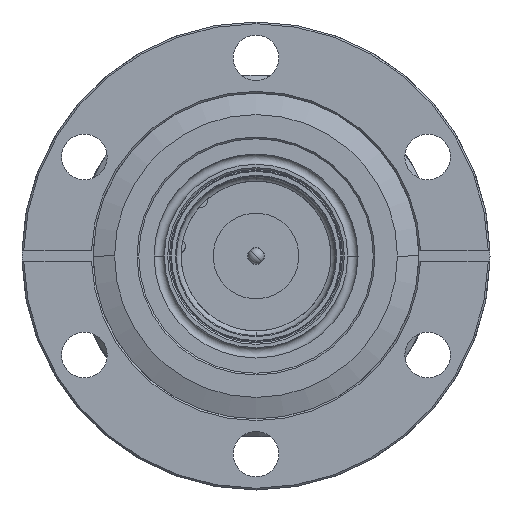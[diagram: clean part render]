
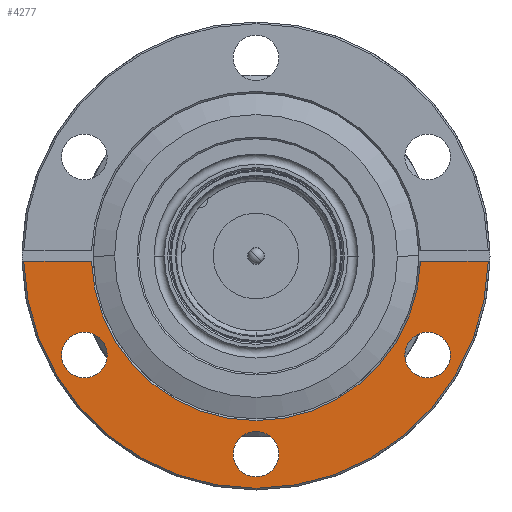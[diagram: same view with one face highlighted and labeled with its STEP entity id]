
A CAD part, front view. The second image highlights one B-rep face of the part: STEP entity #4277.
In plain terms, the highlighted planar face has unit normal (0, -1, 0).
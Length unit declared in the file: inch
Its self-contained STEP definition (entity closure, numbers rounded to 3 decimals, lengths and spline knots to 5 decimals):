
#716 = EDGE_CURVE ( 'NONE', #3772, #26163, #9018, .T. ) ;
#885 = ORIENTED_EDGE ( 'NONE', *, *, #716, .F. ) ;
#2240 = FACE_BOUND ( 'NONE', #28410, .T. ) ;
#2248 = CARTESIAN_POINT ( 'NONE',  ( 0., -3.45, -1.156 ) ) ;
#3772 = VERTEX_POINT ( 'NONE', #29373 ) ;
#3934 = CARTESIAN_POINT ( 'NONE',  ( 0.94953, -3.45, -0.03 ) ) ;
#4277 = ADVANCED_FACE ( 'NONE', ( #16425, #10832, #2240, #5770 ), #8577, .T. ) ;
#5238 = VERTEX_POINT ( 'NONE', #9117 ) ;
#5391 = EDGE_LOOP ( 'NONE', ( #885, #9840, #7220, #11126 ) ) ;
#5770 = FACE_OUTER_BOUND ( 'NONE', #5391, .T. ) ;
#5854 = AXIS2_PLACEMENT_3D ( 'NONE', #18578, #36305, #29775 ) ;
#6501 = DIRECTION ( 'NONE',  ( 0., 0., 1. ) ) ;
#6777 = ORIENTED_EDGE ( 'NONE', *, *, #7448, .F. ) ;
#7042 = AXIS2_PLACEMENT_3D ( 'NONE', #14342, #25719, #6501 ) ;
#7060 = CIRCLE ( 'NONE', #27902, 0.133 ) ;
#7220 = ORIENTED_EDGE ( 'NONE', *, *, #35834, .F. ) ;
#7226 = VERTEX_POINT ( 'NONE', #30236 ) ;
#7448 = EDGE_CURVE ( 'NONE', #12394, #7226, #8461, .T. ) ;
#8034 = DIRECTION ( 'NONE',  ( 0., 0., 1. ) ) ;
#8461 = CIRCLE ( 'NONE', #34107, 0.133 ) ;
#8577 = PLANE ( 'NONE',  #12421 ) ;
#8643 = DIRECTION ( 'NONE',  ( 0., -1., 0. ) ) ;
#8741 = CARTESIAN_POINT ( 'NONE',  ( 0.95953, -3.45, -0.03 ) ) ;
#9018 = LINE ( 'NONE', #34053, #34121 ) ;
#9117 = CARTESIAN_POINT ( 'NONE',  ( 1.00113, -3.45, -0.711 ) ) ;
#9840 = ORIENTED_EDGE ( 'NONE', *, *, #20635, .T. ) ;
#10727 = DIRECTION ( 'NONE',  ( 0., 1., 0. ) ) ;
#10832 = FACE_BOUND ( 'NONE', #33321, .T. ) ;
#11126 = ORIENTED_EDGE ( 'NONE', *, *, #29211, .T. ) ;
#11259 = VERTEX_POINT ( 'NONE', #8741 ) ;
#11480 = CARTESIAN_POINT ( 'NONE',  ( 1.35467, -3.45, -0.03 ) ) ;
#11785 = CIRCLE ( 'NONE', #30858, 0.96 ) ;
#12394 = VERTEX_POINT ( 'NONE', #23495 ) ;
#12421 = AXIS2_PLACEMENT_3D ( 'NONE', #22950, #19583, #22217 ) ;
#12468 = AXIS2_PLACEMENT_3D ( 'NONE', #16364, #24572, #30344 ) ;
#12523 = DIRECTION ( 'NONE',  ( 0., 0., 1. ) ) ;
#13084 = VERTEX_POINT ( 'NONE', #36765 ) ;
#13452 = ORIENTED_EDGE ( 'NONE', *, *, #29802, .F. ) ;
#14341 = DIRECTION ( 'NONE',  ( 0., -1., 0. ) ) ;
#14342 = CARTESIAN_POINT ( 'NONE',  ( 1.00113, -3.45, -0.578 ) ) ;
#14754 = LINE ( 'NONE', #3934, #31710 ) ;
#16364 = CARTESIAN_POINT ( 'NONE',  ( -1.00113, -3.45, -0.578 ) ) ;
#16425 = FACE_BOUND ( 'NONE', #20974, .T. ) ;
#18432 = CARTESIAN_POINT ( 'NONE',  ( -0.95953, -3.45, -0.03 ) ) ;
#18578 = CARTESIAN_POINT ( 'NONE',  ( -1.00113, -3.45, -0.578 ) ) ;
#19583 = DIRECTION ( 'NONE',  ( 0., -1., 0. ) ) ;
#20024 = CARTESIAN_POINT ( 'NONE',  ( 0., -3.45, 0. ) ) ;
#20102 = VERTEX_POINT ( 'NONE', #26262 ) ;
#20635 = EDGE_CURVE ( 'NONE', #3772, #24196, #32155, .T. ) ;
#20974 = EDGE_LOOP ( 'NONE', ( #30976, #31387 ) ) ;
#21825 = CARTESIAN_POINT ( 'NONE',  ( -1.00113, -3.45, -0.711 ) ) ;
#21865 = ORIENTED_EDGE ( 'NONE', *, *, #31183, .F. ) ;
#22217 = DIRECTION ( 'NONE',  ( -1., 0., 0. ) ) ;
#22950 = CARTESIAN_POINT ( 'NONE',  ( 1.365, -3.45, 0. ) ) ;
#23108 = CIRCLE ( 'NONE', #7042, 0.133 ) ;
#23153 = DIRECTION ( 'NONE',  ( 1., 0., 0. ) ) ;
#23390 = DIRECTION ( 'NONE',  ( 1., 0., 0. ) ) ;
#23495 = CARTESIAN_POINT ( 'NONE',  ( 0., -3.45, -1.023 ) ) ;
#23899 = CARTESIAN_POINT ( 'NONE',  ( 0., -3.45, -1.156 ) ) ;
#24196 = VERTEX_POINT ( 'NONE', #11480 ) ;
#24572 = DIRECTION ( 'NONE',  ( 0., -1., 0. ) ) ;
#25719 = DIRECTION ( 'NONE',  ( 0., -1., 0. ) ) ;
#25745 = DIRECTION ( 'NONE',  ( 0., -1., 0. ) ) ;
#26163 = VERTEX_POINT ( 'NONE', #18432 ) ;
#26262 = CARTESIAN_POINT ( 'NONE',  ( 1.00113, -3.45, -0.445 ) ) ;
#26763 = EDGE_CURVE ( 'NONE', #13084, #30889, #33266, .T. ) ;
#27902 = AXIS2_PLACEMENT_3D ( 'NONE', #23899, #29313, #12523 ) ;
#28410 = EDGE_LOOP ( 'NONE', ( #6777, #13452 ) ) ;
#28507 = DIRECTION ( 'NONE',  ( 0., 0., 1. ) ) ;
#28878 = CARTESIAN_POINT ( 'NONE',  ( 1.00113, -3.45, -0.578 ) ) ;
#29082 = EDGE_CURVE ( 'NONE', #20102, #5238, #23108, .T. ) ;
#29211 = EDGE_CURVE ( 'NONE', #11259, #26163, #11785, .T. ) ;
#29313 = DIRECTION ( 'NONE',  ( 0., -1., 0. ) ) ;
#29373 = CARTESIAN_POINT ( 'NONE',  ( -1.35467, -3.45, -0.03 ) ) ;
#29449 = CARTESIAN_POINT ( 'NONE',  ( 0., -3.45, 0. ) ) ;
#29775 = DIRECTION ( 'NONE',  ( 0., 0., 1. ) ) ;
#29802 = EDGE_CURVE ( 'NONE', #7226, #12394, #7060, .T. ) ;
#30236 = CARTESIAN_POINT ( 'NONE',  ( 0., -3.45, -1.289 ) ) ;
#30344 = DIRECTION ( 'NONE',  ( 0., 0., 1. ) ) ;
#30858 = AXIS2_PLACEMENT_3D ( 'NONE', #29449, #10727, #33127 ) ;
#30889 = VERTEX_POINT ( 'NONE', #21825 ) ;
#30976 = ORIENTED_EDGE ( 'NONE', *, *, #29082, .F. ) ;
#31183 = EDGE_CURVE ( 'NONE', #30889, #13084, #33313, .T. ) ;
#31387 = ORIENTED_EDGE ( 'NONE', *, *, #35163, .F. ) ;
#31680 = CIRCLE ( 'NONE', #34081, 0.133 ) ;
#31710 = VECTOR ( 'NONE', #23153, 39.37008 ) ;
#32155 = CIRCLE ( 'NONE', #32747, 1.355 ) ;
#32747 = AXIS2_PLACEMENT_3D ( 'NONE', #20024, #8643, #34042 ) ;
#33127 = DIRECTION ( 'NONE',  ( 1., 0., 0. ) ) ;
#33266 = CIRCLE ( 'NONE', #5854, 0.133 ) ;
#33313 = CIRCLE ( 'NONE', #12468, 0.133 ) ;
#33321 = EDGE_LOOP ( 'NONE', ( #36677, #21865 ) ) ;
#34042 = DIRECTION ( 'NONE',  ( 1., 0., 0. ) ) ;
#34053 = CARTESIAN_POINT ( 'NONE',  ( -0.94953, -3.45, -0.03 ) ) ;
#34081 = AXIS2_PLACEMENT_3D ( 'NONE', #28878, #14341, #28507 ) ;
#34107 = AXIS2_PLACEMENT_3D ( 'NONE', #2248, #25745, #8034 ) ;
#34121 = VECTOR ( 'NONE', #23390, 39.37008 ) ;
#35163 = EDGE_CURVE ( 'NONE', #5238, #20102, #31680, .T. ) ;
#35834 = EDGE_CURVE ( 'NONE', #11259, #24196, #14754, .T. ) ;
#36305 = DIRECTION ( 'NONE',  ( 0., -1., 0. ) ) ;
#36677 = ORIENTED_EDGE ( 'NONE', *, *, #26763, .F. ) ;
#36765 = CARTESIAN_POINT ( 'NONE',  ( -1.00113, -3.45, -0.445 ) ) ;
